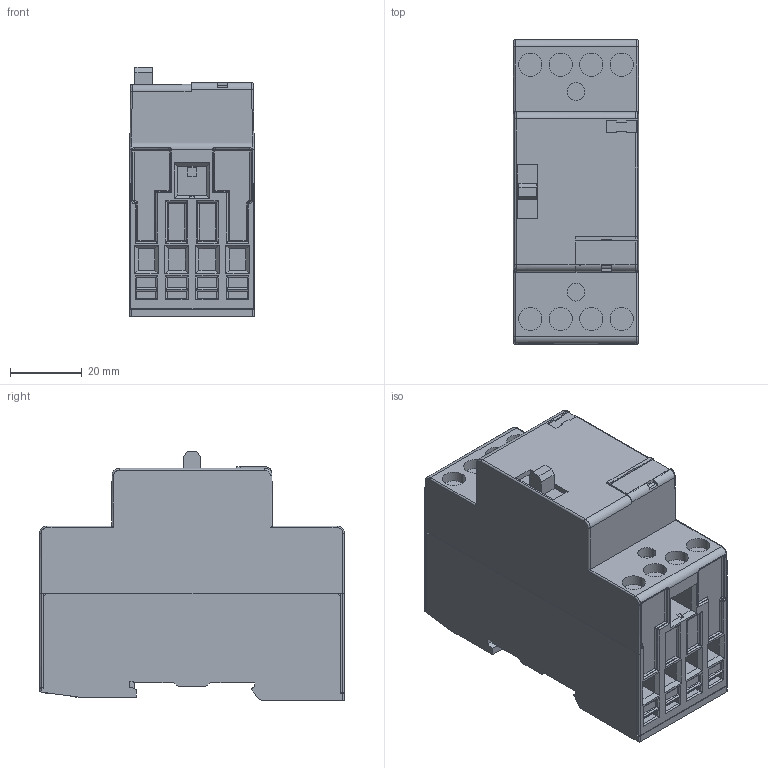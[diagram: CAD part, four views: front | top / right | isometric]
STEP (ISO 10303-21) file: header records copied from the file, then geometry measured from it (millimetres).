
FILE_DESCRIPTION (( 'STEP AP214' ), '1' );
FILE_NAME ('RAC25.STEP', '2024-04-11T06:39:40', ( '' ), ( '' ), 'SwSTEP 2.0', 'SolidWorks 2022', '' );
FILE_SCHEMA (( 'AUTOMOTIVE_DESIGN' ));
Length unit declared in the file: millimetre
Products named in the file (1): RAC25
Bounding box: 35 x 85 x 69.7 mm (x, y, z)
Volume: 153340.8 mm3; surface area: 30810.3 mm2
Topology: 1 solids, 8 shells, 1041 faces, 2678 edges, 1683 vertices
Faces by surface type: plane 764, cylinder 229, bspline 48
Entity records: 42907 total; most frequent: CARTESIAN_POINT 7858, ORIENTED_EDGE 5356, DIRECTION 4577, EDGE_CURVE 2678, VECTOR 2251, LINE 2251, VERTEX_POINT 1683, AXIS2_PLACEMENT_3D 1163
